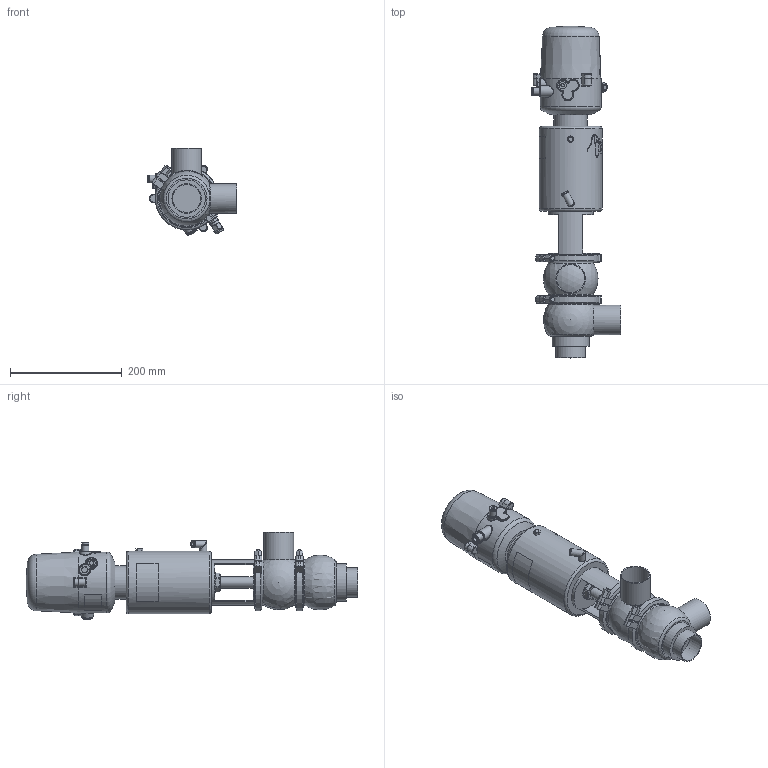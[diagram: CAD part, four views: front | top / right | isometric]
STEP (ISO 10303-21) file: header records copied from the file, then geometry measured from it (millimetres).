
FILE_DESCRIPTION (( 'STEP AP214' ), '1' );
FILE_NAME ('INNOVA K H W DIN 050 T2 AS NC & C-TOP S_10.240.16.0073.STEP', '2024-08-06T08:53:18', ( '' ), ( '' ), 'SwSTEP 2.0', 'SolidWorks 2023', '' );
FILE_SCHEMA (( 'AUTOMOTIVE_DESIGN' ));
Length unit declared in the file: millimetre
Products named in the file (8): 10.240.15.0001_DN 050; 10.240.15.0002_DIN 050; 10.240.15.0010_DN 050; 10.240.15.0006_DIN 050; INNOVA K H W DIN 050 T2 AS NC & C-TOP S_10.240.16.0073; 10.426.15.0001_C-TOP S - 1 EV; 10.240.15.0014_T2 AS P0; 10.240.15.0017_Estàndard
Assembly tree (8 placements, depth 2):
  INNOVA K H W DIN 050 T2 AS NC & C-TOP S_10.240.16.0073
    10.240.15.0006_DIN 050
    10.240.15.0002_DIN 050
    10.240.15.0010_DN 050
    10.240.15.0014_T2 AS P0
    10.240.15.0017_Estàndard
    10.426.15.0001_C-TOP S - 1 EV
    10.240.15.0001_DN 050  x2
Bounding box: 161 x 595 x 156.63 mm (x, y, z)
Volume: 4152000.1 mm3; surface area: 355201.2 mm2
Topology: 8 solids, 8 shells, 1172 faces, 2828 edges, 1882 vertices
Faces by surface type: plane 410, cylinder 356, cone 201, bspline 160, torus 37, sphere 8
Full cylindrical faces by diameter (mm): 0.371 x17, 0.512 x16, 0.658 x16, 0.795 x16, 0.94 x15, 1.098 x15, 1.241 x13, 1.382 x13, 1.523 x11, 1.669 x10, 2.201 x1, 4 x2, 5.5 x2, 6 x2, 6.15 x1, 8 x6, 8.5 x1, 10 x1, 10.5 x1, 11 x2, 12.5 x3, 13 x2, 13.5 x2, 16 x1, 17 x3, 20 x3, 20.5 x1, 22 x2, 31 x1, 34.5 x3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
Entity records: 58040 total; most frequent: CARTESIAN_POINT 27843, ORIENTED_EDGE 4510, DIRECTION 3647, EDGE_CURVE 2255, VERTEX_POINT 1605, EDGE_LOOP 1570, AXIS2_PLACEMENT_3D 1495, FACE_OUTER_BOUND 1331
